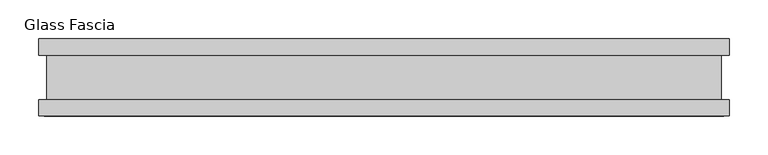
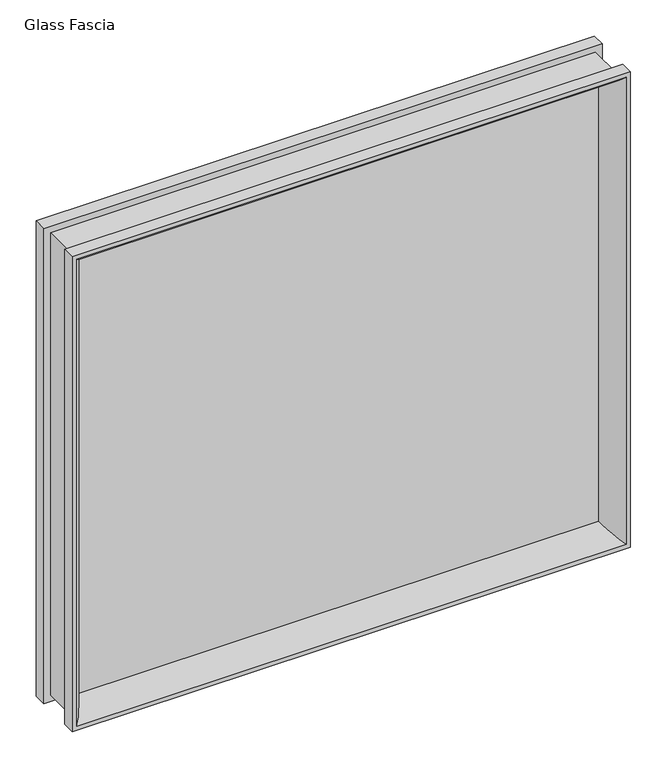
"""IFC4 building model written with IfcOpenShell, lengths in millimetres: proxy geometry, Panel-Fascia-Teknion-Altos-Glass : Glass Fascia."""

from ifc_helpers import new_model, si_unit, frame, origin, place, context, project, spatial, polyline, ellipse_curve, outline, extrude, source, transform, mapped, element, save
from ifc_brep_helpers import plane_surface, cylinder_surface, advanced_brep


def glass_fascia_74ba01bb(model_context):
    return source(origin(), model_context, "Body", "SolidModel", [
        advanced_brep(
        [(422.1144089, 5.0827449, 782.6403332), (440.0692593, 50.0558594, 800.5951836), (440.0692593, 50.0558594, 10.1728164), (422.1144089, 5.0827449, 28.1276668), (432.6046, -5.0827449, 793.1305243), (432.6046, 5.0827449, 793.1305243), (432.6046, 5.0827449, 17.6374757), (432.6046, -5.0827449, 17.6374757), (440.0692593, -50.0558594, 800.5951836), (422.1144089, -5.0827449, 782.6403332), (422.1144089, -5.0827449, 28.1276668), (440.0692593, -50.0558594, 10.1728164), (447.0670757, -28.8801202, 807.593), (447.0670757, -50.0558594, 807.593), (447.0670757, -50.0558594, 3.175), (447.0670757, -28.8801202, 3.175), (436.2420758, 28.2698798, 796.7680001), (436.2420758, -28.8801202, 796.7680001), (436.2420758, -28.8801202, 13.9999999), (436.2420758, 28.2698798, 13.9999999), (447.0670757, 50.0558594, 807.593), (447.0670757, 28.2698798, 807.593), (447.0670757, 28.2698798, 3.175), (447.0670757, 50.0558594, 3.175), (-440.0692593, 50.0558594, 10.1728164), (-422.1144089, 5.0827449, 28.1276668), (-432.6046, 5.0827449, 17.6374757), (-432.6046, -5.0827449, 17.6374757), (-422.1144089, -5.0827449, 28.1276668), (-440.0692593, -50.0558594, 10.1728164), (-447.0670757, -50.0558594, 3.175), (-447.0670757, -28.8801202, 3.175), (-436.2420758, -28.8801202, 13.9999999), (-436.2420758, 28.2698798, 13.9999999), (-447.0670757, 28.2698798, 3.175), (-447.0670757, 50.0558594, 3.175), (-440.0692593, 50.0558594, 800.5951836), (-422.1144089, 5.0827449, 782.6403332), (-432.6046, 5.0827449, 793.1305243), (-432.6046, -5.0827449, 793.1305243), (-422.1144089, -5.0827449, 782.6403332), (-440.0692593, -50.0558594, 800.5951836), (-447.0670757, -50.0558594, 807.593), (-447.0670757, -28.8801202, 807.593), (-436.2420758, -28.8801202, 796.7680001), (-436.2420758, 28.2698798, 796.7680001), (-447.0670757, 28.2698798, 807.593), (-447.0670757, 50.0558594, 807.593)],
        [
            (0, 1, ellipse_curve(frame((474.2006463, 10.3587469, 834.7265705), z_axis=(0.7071067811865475, 0.0, -0.7071067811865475), x_axis=(0.7071067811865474, 0.0, 0.7071067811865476)), 74.0379946, 52.352768)),
            (1, 2),
            (2, 3, ellipse_curve(frame((474.2006463, 10.3587469, -23.9585705), z_axis=(0.7071067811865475, 0.0, 0.7071067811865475), x_axis=(-0.7071067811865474, 0.0, 0.7071067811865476)), 74.0379946, 52.352768)),
            (3, 0),
            (4, 5),
            (5, 6),
            (6, 7),
            (7, 4),
            (8, 9, ellipse_curve(frame((474.2006463, -10.3587469, 834.7265705), z_axis=(0.7071067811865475, 0.0, -0.7071067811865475), x_axis=(0.7071067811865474, 0.0, 0.7071067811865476)), 74.0379946, 52.352768)),
            (9, 10),
            (10, 11, ellipse_curve(frame((474.2006463, -10.3587469, -23.9585705), z_axis=(0.7071067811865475, 0.0, 0.7071067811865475), x_axis=(-0.7071067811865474, 0.0, 0.7071067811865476)), 74.0379946, 52.352768)),
            (11, 8),
            (12, 13),
            (13, 14),
            (14, 15),
            (15, 12),
            (16, 17),
            (17, 18),
            (18, 19),
            (19, 16),
            (20, 21),
            (21, 22),
            (22, 23),
            (23, 20),
            (2, 24),
            (24, 25, ellipse_curve(frame((-474.2006463, 10.3587469, -23.9585705), z_axis=(0.7071067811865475, 0.0, -0.7071067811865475), x_axis=(0.7071067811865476, 0.0, 0.7071067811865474)), 74.0379946, 52.352768)),
            (25, 3),
            (6, 26),
            (26, 27),
            (27, 7),
            (10, 28),
            (28, 29, ellipse_curve(frame((-474.2006463, -10.3587469, -23.9585705), z_axis=(0.7071067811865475, 0.0, -0.7071067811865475), x_axis=(0.7071067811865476, 0.0, 0.7071067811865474)), 74.0379946, 52.352768)),
            (29, 11),
            (14, 30),
            (30, 31),
            (31, 15),
            (18, 32),
            (32, 33),
            (33, 19),
            (22, 34),
            (34, 35),
            (35, 23),
            (24, 36),
            (36, 37, ellipse_curve(frame((-474.2006463, 10.3587469, 834.7265705), z_axis=(-0.7071067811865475, 0.0, -0.7071067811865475), x_axis=(0.7071067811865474, 0.0, -0.7071067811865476)), 74.0379946, 52.352768)),
            (37, 25),
            (26, 38),
            (38, 39),
            (39, 27),
            (28, 40),
            (40, 41, ellipse_curve(frame((-474.2006463, -10.3587469, 834.7265705), z_axis=(-0.7071067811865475, 0.0, -0.7071067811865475), x_axis=(0.7071067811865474, 0.0, -0.7071067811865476)), 74.0379946, 52.352768)),
            (41, 29),
            (30, 42),
            (42, 43),
            (43, 31),
            (32, 44),
            (44, 45),
            (45, 33),
            (34, 46),
            (46, 47),
            (47, 35),
            (47, 20),
            (1, 36),
            (0, 37),
            (5, 38),
            (4, 39),
            (9, 40),
            (8, 41),
            (13, 42),
            (12, 43),
            (17, 44),
            (16, 45),
            (21, 46),
        ],
        [
            cylinder_surface(frame((474.2006463, 10.3587469, 807.593), z_axis=(0.0, 0.0, 1.0), x_axis=(1.0, 0.0, 0.0)), 52.352768),
            plane_surface(frame((432.6046, 5.0827449, 793.1305243), z_axis=(-1.0, 0.0, 0.0), x_axis=(0.0, 0.0, -1.0))),
            cylinder_surface(frame((474.2006463, -10.3587469, 807.593), z_axis=(0.0, 0.0, 1.0), x_axis=(1.0, 0.0, 0.0)), 52.352768),
            plane_surface(frame((447.0670757, -50.0558594, 807.593), z_axis=(1.0, 0.0, 0.0), x_axis=(0.0, 0.0, -1.0))),
            plane_surface(frame((436.2420758, -28.8801202, 796.7680001), z_axis=(1.0, 0.0, 0.0), x_axis=(0.0, 0.0, -1.0))),
            plane_surface(frame((447.0670757, 28.2698798, 807.593), z_axis=(1.0, 0.0, 0.0), x_axis=(0.0, 0.0, -1.0))),
            cylinder_surface(frame((447.0670757, 10.3587469, -23.9585705), z_axis=(1.0, 0.0, 0.0), x_axis=(0.0, 0.0, -1.0)), 52.352768),
            plane_surface(frame((432.6046, 5.0827449, 17.6374757), z_axis=(0.0, 0.0, 1.0), x_axis=(-1.0, 0.0, 0.0))),
            cylinder_surface(frame((447.0670757, -10.3587469, -23.9585705), z_axis=(1.0, 0.0, 0.0), x_axis=(0.0, 0.0, -1.0)), 52.352768),
            plane_surface(frame((447.0670757, -50.0558594, 3.175), z_axis=(0.0, 0.0, -1.0), x_axis=(-1.0, 0.0, 0.0))),
            plane_surface(frame((436.2420758, -28.8801202, 13.9999999), z_axis=(0.0, 0.0, -1.0), x_axis=(-1.0, 0.0, 0.0))),
            plane_surface(frame((447.0670757, 28.2698798, 3.175), z_axis=(0.0, 0.0, -1.0), x_axis=(-1.0, 0.0, 0.0))),
            cylinder_surface(frame((-474.2006463, 10.3587469, 3.175), z_axis=(0.0, 0.0, -1.0), x_axis=(-1.0, 0.0, 0.0)), 52.352768),
            plane_surface(frame((-432.6046, 5.0827449, 17.6374757), z_axis=(1.0, 0.0, 0.0), x_axis=(0.0, 0.0, 1.0))),
            cylinder_surface(frame((-474.2006463, -10.3587469, 3.175), z_axis=(0.0, 0.0, -1.0), x_axis=(-1.0, 0.0, 0.0)), 52.352768),
            plane_surface(frame((-447.0670757, -50.0558594, 3.175), z_axis=(-1.0, 0.0, 0.0), x_axis=(0.0, 0.0, 1.0))),
            plane_surface(frame((-436.2420758, -28.8801202, 13.9999999), z_axis=(-1.0, 0.0, 0.0), x_axis=(0.0, 0.0, 1.0))),
            plane_surface(frame((-447.0670757, 28.2698798, 3.175), z_axis=(-1.0, 0.0, 0.0), x_axis=(0.0, 0.0, 1.0))),
            plane_surface(frame((-447.0670757, 50.0558594, 807.593), z_axis=(0.0, 1.0, 0.0), x_axis=(1.0, 0.0, 0.0))),
            cylinder_surface(frame((-447.0670757, 10.3587469, 834.7265705), z_axis=(-1.0, 0.0, 0.0), x_axis=(0.0, 0.0, 1.0)), 52.352768),
            plane_surface(frame((-422.1144089, 5.0827449, 782.6403332), z_axis=(0.0, -1.0, 0.0), x_axis=(1.0, 0.0, 0.0))),
            plane_surface(frame((-432.6046, 5.0827449, 793.1305243), z_axis=(0.0, 0.0, -1.0), x_axis=(1.0, 0.0, 0.0))),
            plane_surface(frame((-432.6046, -5.0827449, 793.1305243), z_axis=(0.0, 1.0, 0.0), x_axis=(1.0, 0.0, 0.0))),
            cylinder_surface(frame((-447.0670757, -10.3587469, 834.7265705), z_axis=(-1.0, 0.0, 0.0), x_axis=(0.0, 0.0, 1.0)), 52.352768),
            plane_surface(frame((-440.0692593, -50.0558594, 800.5951836), z_axis=(0.0, -1.0, 0.0), x_axis=(1.0, 0.0, 0.0))),
            plane_surface(frame((-447.0670757, -50.0558594, 807.593), z_axis=(0.0, 0.0, 1.0), x_axis=(1.0, 0.0, 0.0))),
            plane_surface(frame((-447.0670757, -28.8801202, 807.593), z_axis=(0.0, 1.0, 0.0), x_axis=(1.0, 0.0, 0.0))),
            plane_surface(frame((-436.2420758, -28.8801202, 796.7680001), z_axis=(0.0, 0.0, 1.0), x_axis=(1.0, 0.0, 0.0))),
            plane_surface(frame((-436.2420758, 28.2698798, 796.7680001), z_axis=(0.0, -1.0, 0.0), x_axis=(1.0, 0.0, 0.0))),
            plane_surface(frame((-447.0670757, 28.2698798, 807.593), z_axis=(0.0, 0.0, 1.0), x_axis=(1.0, 0.0, 0.0))),
        ],
        [
            (0, [[1, 2, 3, 4]]),
            (1, [[5, 6, 7, 8]]),
            (2, [[9, 10, 11, 12]]),
            (3, [[13, 14, 15, 16]]),
            (4, [[17, 18, 19, 20]]),
            (5, [[21, 22, 23, 24]]),
            (6, [[-3, 25, 26, 27]]),
            (7, [[-7, 28, 29, 30]]),
            (8, [[-11, 31, 32, 33]]),
            (9, [[-15, 34, 35, 36]]),
            (10, [[-19, 37, 38, 39]]),
            (11, [[-23, 40, 41, 42]]),
            (12, [[-26, 43, 44, 45]]),
            (13, [[-29, 46, 47, 48]]),
            (14, [[-32, 49, 50, 51]]),
            (15, [[-35, 52, 53, 54]]),
            (16, [[-38, 55, 56, 57]]),
            (17, [[-41, 58, 59, 60]]),
            (18, [[-42, -60, 61, -24], [62, -43, -25, -2]]),
            (19, [[-44, -62, -1, 63]]),
            (20, [[64, -46, -28, -6], [-27, -45, -63, -4]]),
            (21, [[-47, -64, -5, 65]]),
            (22, [[-30, -48, -65, -8], [66, -49, -31, -10]]),
            (23, [[-50, -66, -9, 67]]),
            (24, [[68, -52, -34, -14], [-33, -51, -67, -12]]),
            (25, [[-53, -68, -13, 69]]),
            (26, [[-36, -54, -69, -16], [70, -55, -37, -18]]),
            (27, [[-56, -70, -17, 71]]),
            (28, [[72, -58, -40, -22], [-39, -57, -71, -20]]),
            (29, [[-59, -72, -21, -61]]),
        ],
    ),
        extrude(outline(polyline([(432.6046, 2.9765625), (432.6046, -2.9765625), (-432.6046, -2.9765625), (-432.6046, 2.9765625), (432.6046, 2.9765625)])), frame((0.0, 0.0, 17.6374757), z_axis=(0.0, 0.0, 1.0), x_axis=(1.0, 0.0, 0.0)), (0.0, 0.0, 1.0), 775.4930485),
    ])


if __name__ == "__main__":
    model = new_model("IFC4")
    model_context = context("Model", 3, world=origin())
    ifc_project = project(units=[si_unit("LENGTHUNIT", "METRE", prefix="MILLI")], contexts=[model_context])
    site = spatial("IfcSite", under=ifc_project)
    building = spatial("IfcBuilding", under=site)
    placement = place(None, origin())
    glass_fascia_shape = glass_fascia_74ba01bb(model_context)
    element("IfcBuildingElementProxy", 1, Name="Panel-Fascia-Teknion-Altos-Glass : Glass Fascia", ObjectType="Panel-Fascia-Teknion-Altos-Glass : Glass Fascia", at=placement, inside=building, context=model_context, shape_type="MappedRepresentation", body=[
        mapped(glass_fascia_shape, transform((0.0, 0.0, 0.0), x_axis=(1.0, 0.0, 0.0), y_axis=(0.0, 1.0, 0.0), z_axis=(0.0, 0.0, 1.0))),
    ])
    save(model, "model.ifc")
